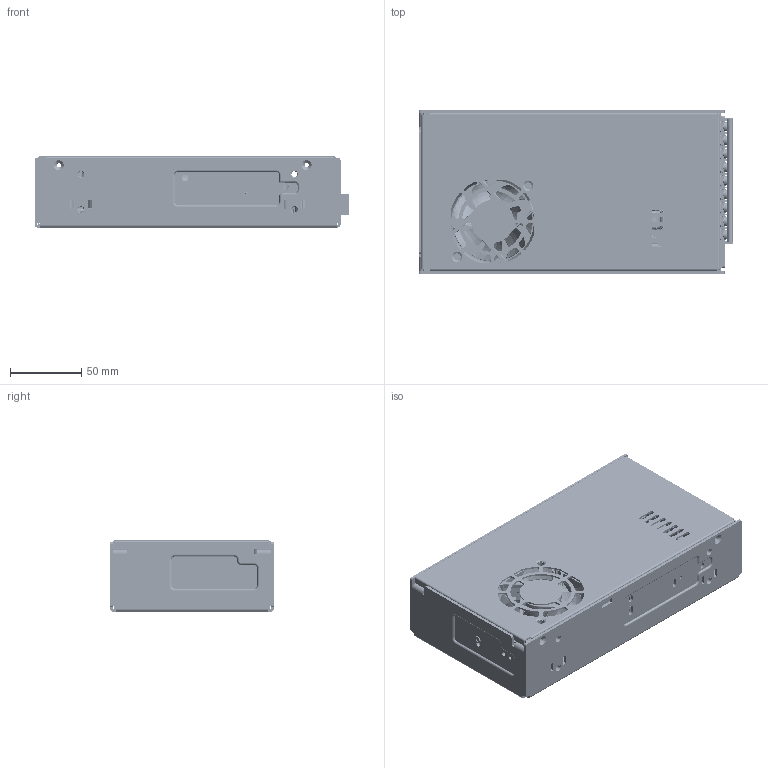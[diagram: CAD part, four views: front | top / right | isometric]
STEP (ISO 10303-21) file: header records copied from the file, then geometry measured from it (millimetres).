
FILE_DESCRIPTION((''),'2;1');
FILE_NAME('CASE_ASM','2013-05-16T',('LeoN.Yeh'),(''),'PRO/ENGINEER BY PARAMETRIC TECHNOLOGY CORPORATION, 2010280','PRO/ENGINEER BY PARAMETRIC TECHNOLOGY CORPORATION, 2010280','');
FILE_SCHEMA(('CONFIG_CONTROL_DESIGN'));
Products named in the file (49): CHASSIS_AF0; CHASSIS-STANDOFF; CHASSIS-STANDOFF-1; INSULATOR_AF0; CHASSIS_ASM; INSULATOR; PWB_2_25_2013; SWITCH; BRACKET; HSK1; L_PIN_LEFT; PIN1; BD1; HSK1_ASM_ASM; Q34; IC101; T1; VR1_; LEG1_; VR_LEG__ASM; LED_HOLDER; 3105325300-L8; 3105319300-L12; FL1; R107; R8; F1; 1; 2; 3; 4; 5; 6; 7; 8; 9; 10; T14-EO3109A301_ASM; BOX1; VR132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
Assembly tree (66 placements, depth 4):
  CASE_ASM
    CHASSIS_ASM
      CHASSIS_AF0
      CHASSIS-STANDOFF  x2
      CHASSIS-STANDOFF-1  x3
      INSULATOR_AF0
    INSULATOR
    PWB_2_25_2013
    SWITCH
    BRACKET  x2
    HSK1_ASM_ASM
      HSK1
      L_PIN_LEFT
      PIN1
      BD1
    Q34
    IC101
    T1
    VR_LEG__ASM
      VR1_
      LEG1_  x3
    LED_HOLDER
    3105325300-L8  x5
    3105319300-L12
    FL1  x3
    R107  x3
    R8  x2
    F1
    T14-EO3109A301_ASM
      1
      2
      3
      4
      5
      6
      7
      8
      9
      10
    BOX1  x3
    VR132
    COVER_PMT-5V350W1AG
    D101  x2
    6020-1_ASM_ASM
      6020_ASM_6_ASM
        6020KUANG_48
        6020XIN_YE_29_4
      _6020-1_ASM
    NTC_HOLDER
Bounding box: 221.2 x 115 x 50 mm (x, y, z)
Volume: 347998 mm3; surface area: 404375 mm2
Topology: 118 solids, 120 shells, 5072 faces, 12973 edges, 8153 vertices
Faces by surface type: plane 2287, cylinder 1817, torus 629, bspline 227, cone 88, extrusion 14, sphere 10
Entity records: 148813 total; most frequent: CARTESIAN_POINT 50770, ORIENTED_EDGE 20748, DIRECTION 19719, EDGE_CURVE 10374, AXIS2_PLACEMENT_3D 6857, VERTEX_POINT 6701, VECTOR 6005, LINE 5991
